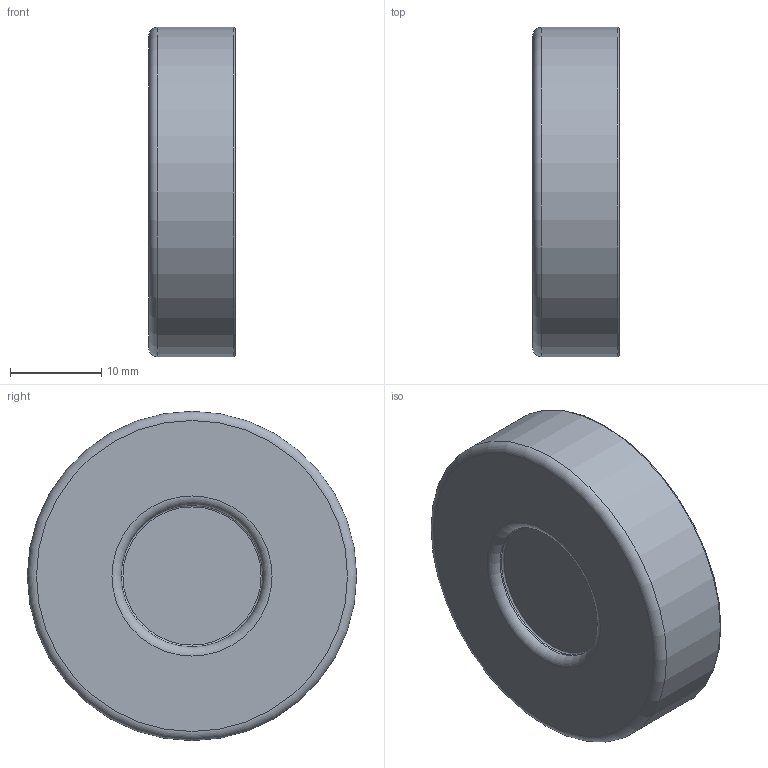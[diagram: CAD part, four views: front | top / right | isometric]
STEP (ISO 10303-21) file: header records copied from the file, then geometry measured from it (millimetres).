
FILE_DESCRIPTION((''),'2;1');
FILE_NAME('W:\13785_CF_Global_Fit_Umsetzung\220_Protective_Lids\M213-441.stp','2010-09-01T15:35:36',('KAA'),(''),'Autodesk Inventor 2011','Autodesk Inventor 2011','');
FILE_SCHEMA(('AUTOMOTIVE_DESIGN { 1 0 10303 214 1 1 1 1 }'));
Length unit declared in the file: millimetre
Products named in the file (1): 213-441
Bounding box: 9.5 x 36 x 36 mm (x, y, z)
Volume: 2007.7 mm3; surface area: 4067.7 mm2
Topology: 1 solids, 1 shells, 21 faces, 36 edges, 20 vertices
Faces by surface type: torus 10, plane 5, cylinder 4, cone 2
Full cylindrical faces by diameter (mm): 15.5 x1, 17.5 x1, 34 x1, 36 x1
Entity records: 440 total; most frequent: DIRECTION 84, CARTESIAN_POINT 62, AXIS2_PLACEMENT_3D 42, ORIENTED_EDGE 40, EDGE_LOOP 40, FACE_OUTER_BOUND 21, ADVANCED_FACE 21, VERTEX_POINT 20
